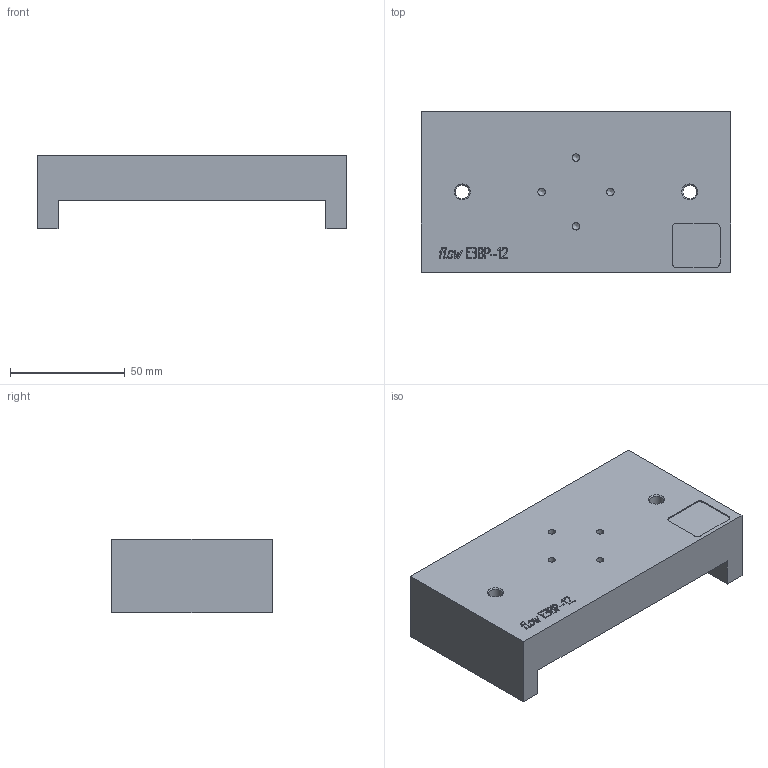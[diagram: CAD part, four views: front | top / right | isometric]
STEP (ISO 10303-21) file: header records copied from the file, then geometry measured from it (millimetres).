
FILE_DESCRIPTION(/* description */ ('Unknown','CAx-IF Rec.Pracs.---Representation and Presentation of Product Manufacturing Information (PMI)---4.0---2014-10-13','CAx-IF Rec.Pracs.---3D Tessellated Geometry---0.4---2014-09-14','2;1'),/* implementation_level */ '2;1');
FILE_NAME(/* name */ 'flowE3BP-12U-TIM_T02',/* time_stamp */ '2026-01-13T16:53:16+01:00',/* author */ ('Unknown'),/* organization */ ('Unknown'),/* preprocessor_version */ 'ST-DEVELOPER v20',/* originating_system */ 'Solid Edge',/* authorisation */ 'Unknown');
FILE_SCHEMA (('AP242_MANAGED_MODEL_BASED_3D_ENGINEERING_MIM_LF { 1 0 10303 442 1 1 4 }'));
Length unit declared in the file: millimetre
Products named in the file (1): flowE3BP-12U-TIM_T02
Bounding box: 135 x 70 x 32.2 mm (x, y, z)
Volume: 198659.8 mm3; surface area: 32577.1 mm2
Topology: 1 solids, 1 shells, 1175 faces, 1934 edges, 1286 vertices
Faces by surface type: plane 611, cylinder 530, bspline 26, cone 8
Full cylindrical faces by diameter (mm): 0.6 x510, 3.242 x8, 6 x2
Entity records: 34105 total; most frequent: CARTESIAN_POINT 5249, DIRECTION 4574, ORIENTED_EDGE 2784, FACE_BOUND 2238, EDGE_LOOP 2234, AXIS2_PLACEMENT_3D 2211, EDGE_CURVE 1392, VERTEX_POINT 1278
